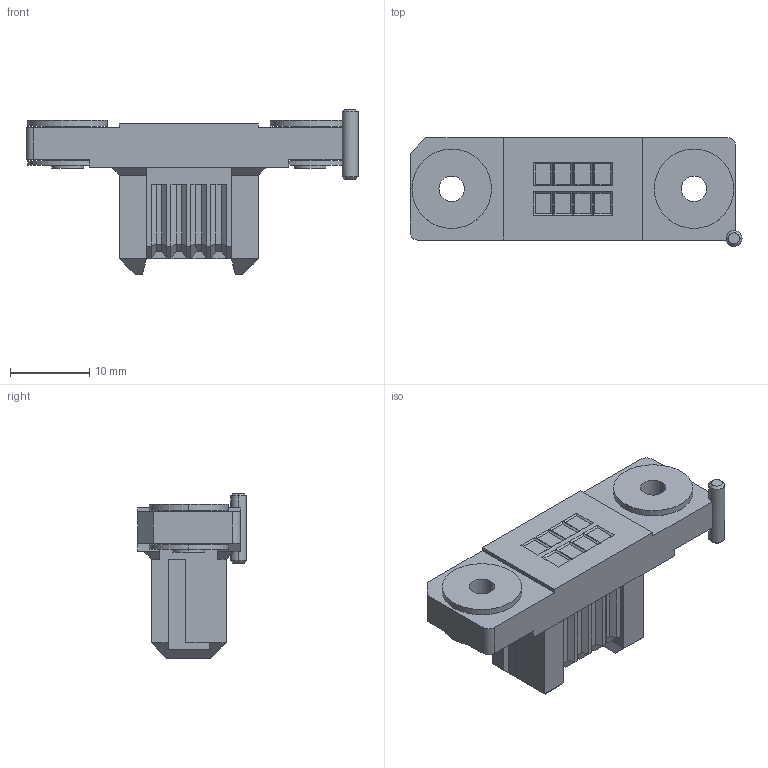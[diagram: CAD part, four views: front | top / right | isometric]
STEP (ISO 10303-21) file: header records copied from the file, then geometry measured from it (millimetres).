
FILE_DESCRIPTION(('CoCreate Modeling STEP Export'),'2;1');
FILE_NAME('P3A947_FA01-008.stp','2017-07-27T14:32:21',(''),(''),'CoCreate Modeling STEP processor for AP214 (Solid Model)','CoCreate Modeling 17.0B 09-Oct-2010 (C) Parametric Technology GmbH','');
FILE_SCHEMA(('AUTOMOTIVE_DESIGN { 1 0 10303 214 1 1 1 1 }'));
Length unit declared in the file: millimetre
Products named in the file (2): FA01-008
Assembly tree (1 placements, depth 2):
  FA01-008
    FA01-008
Bounding box: 41.8 x 13.7 x 20.8 mm (x, y, z)
Volume: 4282.2 mm3; surface area: 3115.9 mm2
Topology: 1 solids, 1 shells, 247 faces, 594 edges, 367 vertices
Faces by surface type: plane 215, cylinder 28, cone 4
Entity records: 6850 total; most frequent: ORIENTED_EDGE 1188, CARTESIAN_POINT 1173, DIRECTION 1088, EDGE_CURVE 594, VECTOR 524, LINE 524, VERTEX_POINT 367, AXIS2_PLACEMENT_3D 282
